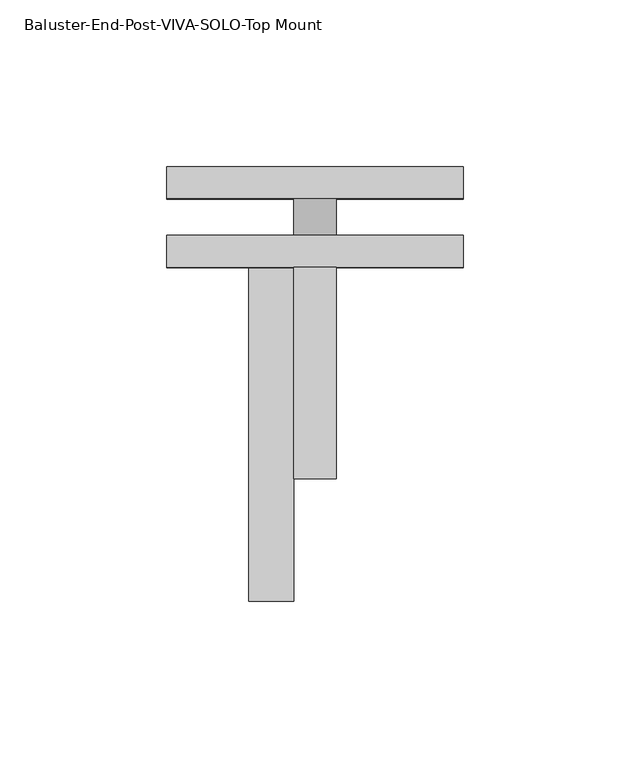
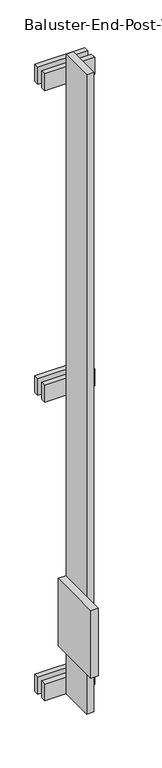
"""IFC4 building model written with IfcOpenShell, lengths in millimetres: proxy geometry, Baluster-End-Post-VIVA-SOLO-Top Mount : ANCHORED TO CONCRETE_FASCIA A1 MOUNT FOLD_STRAIGHT."""

from ifc_helpers import new_model, si_unit, point, frame, frame_2d, origin, place, context, project, spatial, polyline, circle_curve, trimmed, segment, composite_curve, outline, extrude, source, transform, mapped, element, save


def baluster_end_post_viva_solo_top_mount_d0627824(model_context):
    return source(origin(), model_context, "Body", "SweptSolid", [
        extrude(outline(composite_curve([segment(trimmed(circle_curve(frame_2d((-294.2018268, 0.0)), 6.35), [point((-294.2018268, -6.35))], [point((-294.2018268, 6.35))], False, "CARTESIAN"), True, "CONTINUOUS"), segment(trimmed(circle_curve(frame_2d((-294.2018268, 0.0)), 6.35), [point((-294.2018268, 6.35))], [point((-294.2018268, -6.35))], False, "CARTESIAN"), True, "CONTINUOUS")], self_intersect=False)), frame((0.0, -63.209781, 0.0), z_axis=(0.0, 1.0, 0.0), x_axis=(0.0, 0.0, 1.0)), (0.0, 0.0, 1.0), 12.7),
        extrude(outline(composite_curve([segment(trimmed(circle_curve(frame_2d((268.5208758, 0.0)), 6.35), [point((268.5208758, -6.35))], [point((268.5208758, 6.35))], False, "CARTESIAN"), True, "CONTINUOUS"), segment(trimmed(circle_curve(frame_2d((268.5208758, 0.0)), 6.35), [point((268.5208758, 6.35))], [point((268.5208758, -6.35))], False, "CARTESIAN"), True, "CONTINUOUS")], self_intersect=False)), frame((0.0, -63.209781, 0.0), z_axis=(0.0, 1.0, 0.0), x_axis=(0.0, 0.0, 1.0)), (0.0, 0.0, 1.0), 12.7),
        extrude(outline(composite_curve([segment(trimmed(circle_curve(frame_2d((854.7429765, 0.0)), 6.35), [point((854.7429765, -6.35))], [point((854.7429765, 6.35))], False, "CARTESIAN"), True, "CONTINUOUS"), segment(trimmed(circle_curve(frame_2d((854.7429765, 0.0)), 6.35), [point((854.7429765, 6.35))], [point((854.7429765, -6.35))], False, "CARTESIAN"), True, "CONTINUOUS")], self_intersect=False)), frame((0.0, -63.209781, 0.0), z_axis=(0.0, 1.0, 0.0), x_axis=(0.0, 0.0, 1.0)), (0.0, 0.0, 1.0), 12.7),
        extrude(outline(polyline([(-19.84375, -72.734781), (-6.35, -72.734781), (-6.35, -172.747281), (-19.84375, -172.747281), (-19.84375, -72.734781)])), frame((0.0, 0.0, -215.3506464), z_axis=(0.0, 0.0, 1.0), x_axis=(1.0, 0.0, 0.0)), (0.0, 0.0, 1.0), 127.0),
        extrude(outline(polyline([(-6.35, -72.734781), (6.35, -72.734781), (6.35, -136.234781), (-6.35, -136.234781), (-6.35, -72.734781)])), frame((0.0, 0.0, -310.2742418), z_axis=(0.0, 0.0, 1.0), x_axis=(1.0, 0.0, 0.0)), (0.0, 0.0, 1.0), 1204.9740667),
        extrude(outline(polyline([(44.45, -42.5925389), (44.45, -52.1175389), (-44.45, -52.1175389), (-44.45, -42.5925389), (44.45, -42.5925389)])), frame((0.0, 0.0, -310.2742418), z_axis=(0.0, 0.0, 1.0), x_axis=(1.0, 0.0, 0.0)), (0.0, 0.0, 1.0), 31.75),
        extrude(outline(polyline([(44.45, -63.209781), (44.45, -72.734781), (-44.45, -72.734781), (-44.45, -63.209781), (44.45, -63.209781)])), frame((0.0, 0.0, -310.2742418), z_axis=(0.0, 0.0, 1.0), x_axis=(1.0, 0.0, 0.0)), (0.0, 0.0, 1.0), 31.75),
        extrude(outline(polyline([(44.45, -42.5925389), (44.45, -52.1175389), (-44.45, -52.1175389), (-44.45, -42.5925389), (44.45, -42.5925389)])), frame((0.0, 0.0, 838.7824344), z_axis=(0.0, 0.0, 1.0), x_axis=(1.0, 0.0, 0.0)), (0.0, 0.0, 1.0), 31.75),
        extrude(outline(polyline([(44.45, -42.5925389), (44.45, -52.1175389), (-44.45, -52.1175389), (-44.45, -42.5925389), (44.45, -42.5925389)])), frame((0.0, 0.0, 252.4484609), z_axis=(0.0, 0.0, 1.0), x_axis=(1.0, 0.0, 0.0)), (0.0, 0.0, 1.0), 31.75),
        extrude(outline(polyline([(44.45, -63.209781), (44.45, -72.734781), (-44.45, -72.734781), (-44.45, -63.209781), (44.45, -63.209781)])), frame((0.0, 0.0, 838.7824344), z_axis=(0.0, 0.0, 1.0), x_axis=(1.0, 0.0, 0.0)), (0.0, 0.0, 1.0), 31.75),
        extrude(outline(polyline([(44.45, -63.209781), (44.45, -72.734781), (-44.45, -72.734781), (-44.45, -63.209781), (44.45, -63.209781)])), frame((0.0, 0.0, 252.4484609), z_axis=(0.0, 0.0, 1.0), x_axis=(1.0, 0.0, 0.0)), (0.0, 0.0, 1.0), 31.75),
    ])


if __name__ == "__main__":
    model = new_model("IFC4")
    model_context = context("Model", 3, world=origin())
    ifc_project = project(units=[si_unit("LENGTHUNIT", "METRE", prefix="MILLI")], contexts=[model_context])
    site = spatial("IfcSite", under=ifc_project)
    building = spatial("IfcBuilding", under=site)
    placement = place(None, origin())
    baluster_end_post_viva_solo_top_mount_shape = baluster_end_post_viva_solo_top_mount_d0627824(model_context)
    element("IfcBuildingElementProxy", 1, Name="Baluster-End-Post-VIVA-SOLO-Top Mount : ANCHORED TO CONCRETE_FASCIA A1 MOUNT FOLD_STRAIGHT", ObjectType="Baluster-End-Post-VIVA-SOLO-Top Mount : ANCHORED TO CONCRETE_FASCIA A1 MOUNT FOLD_STRAIGHT", at=placement, inside=building, context=model_context, shape_type="MappedRepresentation", body=[
        mapped(baluster_end_post_viva_solo_top_mount_shape, transform((0.0, 0.0, 0.0), x_axis=(1.0, 0.0, 0.0), y_axis=(0.0, 1.0, 0.0), z_axis=(0.0, 0.0, 1.0))),
    ])
    save(model, "model.ifc")
